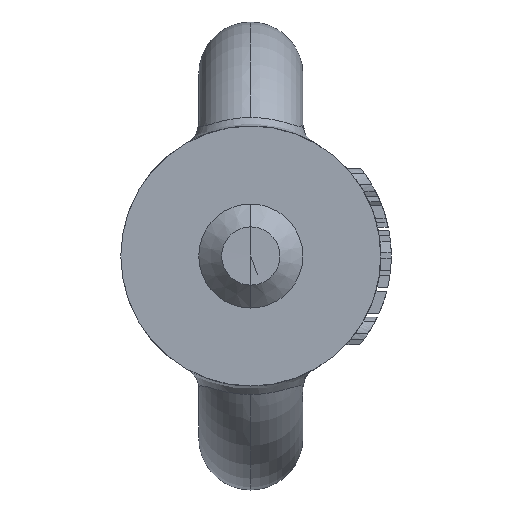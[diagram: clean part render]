
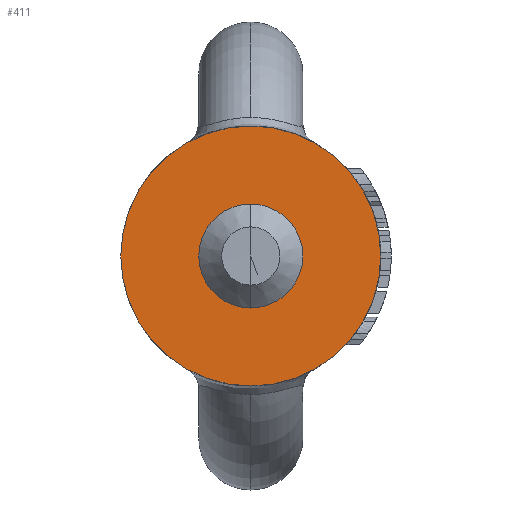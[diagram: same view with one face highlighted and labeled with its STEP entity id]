
A CAD part, front view. The second image highlights one B-rep face of the part: STEP entity #411.
In plain terms, the highlighted planar face has unit normal (0, -1, 0).
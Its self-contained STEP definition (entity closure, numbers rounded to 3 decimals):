
#411=ADVANCED_FACE('',(#827,#828),#829,.F.);
#827=FACE_OUTER_BOUND('',#1996,.T.);
#828=FACE_BOUND('',#1997,.T.);
#829=PLANE('',#1998);
#1996=EDGE_LOOP('',(#3112,#3113));
#1997=EDGE_LOOP('',(#3114,#3115));
#1998=AXIS2_PLACEMENT_3D('',#3116,#3117,#3118);
#3112=ORIENTED_EDGE('',*,*,#3193,.F.);
#3113=ORIENTED_EDGE('',*,*,#3585,.F.);
#3114=ORIENTED_EDGE('',*,*,#3236,.T.);
#3115=ORIENTED_EDGE('',*,*,#3255,.T.);
#3116=CARTESIAN_POINT('',(0.,1.304,0.0));
#3117=DIRECTION('',(0.0,1.0,0.0));
#3118=DIRECTION('',(1.0,0.0,-0.0));
#3193=EDGE_CURVE('',#3710,#3713,#3714,.T.);
#3236=EDGE_CURVE('',#3789,#3792,#3794,.T.);
#3255=EDGE_CURVE('',#3792,#3789,#3818,.T.);
#3585=EDGE_CURVE('',#3713,#3710,#4288,.T.);
#3710=VERTEX_POINT('',#4635);
#3713=VERTEX_POINT('',#4639);
#3714=CIRCLE('',#4640,12.5);
#3789=VERTEX_POINT('',#4757);
#3792=VERTEX_POINT('',#4761);
#3794=CIRCLE('',#4764,3.85);
#3818=CIRCLE('',#4794,3.85);
#4288=CIRCLE('',#5861,12.5);
#4635=CARTESIAN_POINT('',(12.5,1.304,0.));
#4639=CARTESIAN_POINT('',(-12.5,1.304,0.));
#4640=AXIS2_PLACEMENT_3D('',#6209,#6210,#6211);
#4757=CARTESIAN_POINT('',(0.0,1.304,3.85));
#4761=CARTESIAN_POINT('',(0.,1.304,-3.85));
#4764=AXIS2_PLACEMENT_3D('',#6292,#6293,#6294);
#4794=AXIS2_PLACEMENT_3D('',#6316,#6317,#6318);
#5861=AXIS2_PLACEMENT_3D('',#6604,#6605,#6606);
#6209=CARTESIAN_POINT('',(0.0,1.304,0.0));
#6210=DIRECTION('',(-0.0,1.0,0.0));
#6211=DIRECTION('',(1.0,0.0,0.0));
#6292=CARTESIAN_POINT('',(0.0,1.304,0.0));
#6293=DIRECTION('',(0.0,1.0,0.0));
#6294=DIRECTION('',(0.0,0.0,1.0));
#6316=CARTESIAN_POINT('',(0.0,1.304,0.0));
#6317=DIRECTION('',(0.0,1.0,0.0));
#6318=DIRECTION('',(0.0,0.0,1.0));
#6604=CARTESIAN_POINT('',(0.0,1.304,0.0));
#6605=DIRECTION('',(-0.0,1.0,0.0));
#6606=DIRECTION('',(1.0,0.0,0.0));
